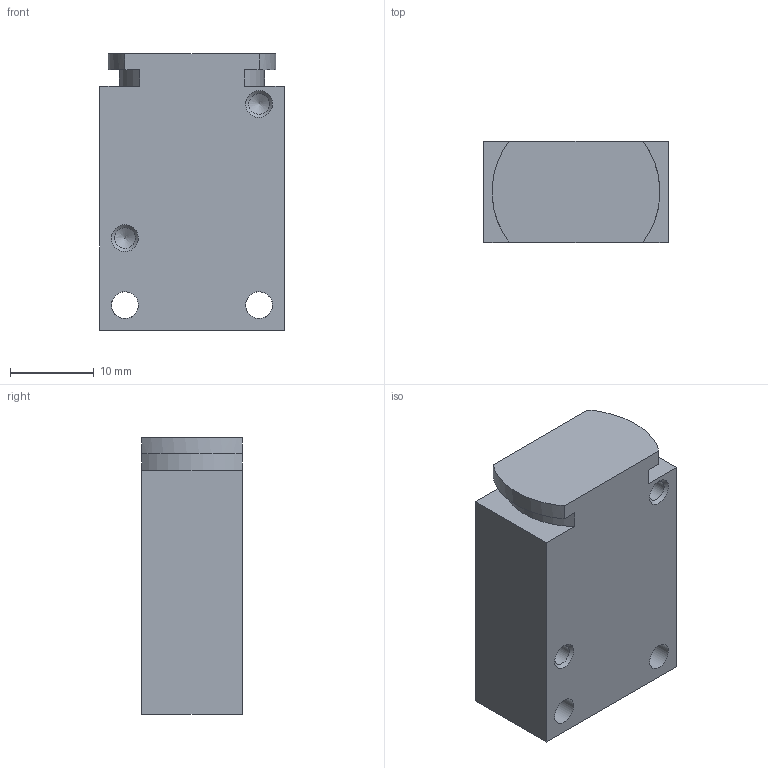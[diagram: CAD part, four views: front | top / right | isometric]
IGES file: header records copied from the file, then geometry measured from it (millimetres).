
Global section: file name: 305_05_00; native system: Autodesk Inventor 2014; preprocessor: unknown; author: A. Manieri; organization: Pneumax S.p.A.; date: 20161004.150752; units: millimetre
Bounding box: 22 x 12 x 33 mm (x, y, z)
Volume: 7639.2 mm3; surface area: 3427 mm2
Topology: 1 solids, 1 shells, 28 faces, 80 edges, 56 vertices
Faces by surface type: bspline 28
